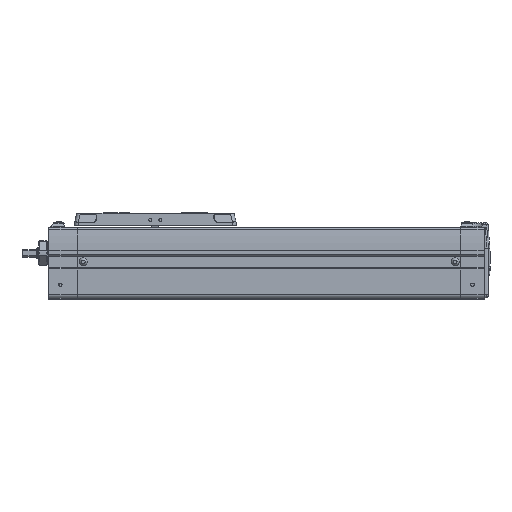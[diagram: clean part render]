
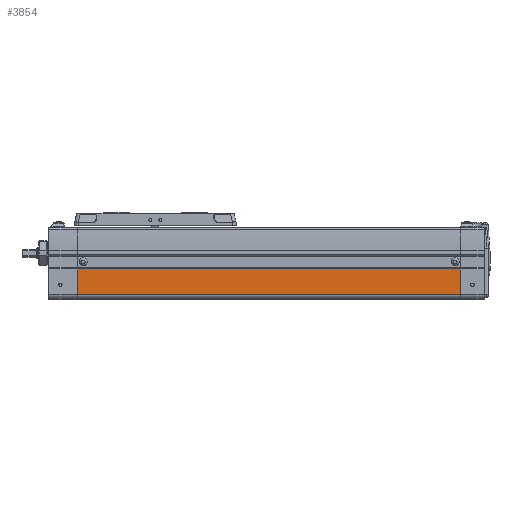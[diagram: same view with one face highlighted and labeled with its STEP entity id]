
A CAD part, front view. The second image highlights one B-rep face of the part: STEP entity #3854.
In plain terms, the highlighted planar face has unit normal (0, -1, 0).
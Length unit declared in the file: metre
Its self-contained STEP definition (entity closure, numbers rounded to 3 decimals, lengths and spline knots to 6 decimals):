
#3854=ADVANCED_FACE('',(#8485),#8486,.T.);
#8485=FACE_OUTER_BOUND('',#14815,.T.);
#8486=PLANE('',#14816);
#14815=EDGE_LOOP('',(#26439,#26440,#26441,#26442));
#14816=AXIS2_PLACEMENT_3D('',#26443,#26444,#26445);
#26439=ORIENTED_EDGE('',*,*,#41362,.T.);
#26440=ORIENTED_EDGE('',*,*,#40652,.F.);
#26441=ORIENTED_EDGE('',*,*,#41363,.T.);
#26442=ORIENTED_EDGE('',*,*,#41364,.T.);
#26443=CARTESIAN_POINT('',(0.,-0.0325,-0.02));
#26444=DIRECTION('',(0.,-1.0,0.));
#26445=DIRECTION('',(0.,0.,-1.0));
#40652=EDGE_CURVE('',#48003,#47998,#48005,.T.);
#41362=EDGE_CURVE('',#49163,#47998,#49164,.T.);
#41363=EDGE_CURVE('',#48003,#49165,#49166,.T.);
#41364=EDGE_CURVE('',#49165,#49163,#49167,.T.);
#47998=VERTEX_POINT('',#58395);
#48003=VERTEX_POINT('',#58402);
#48005=LINE('',#58405,#58406);
#49163=VERTEX_POINT('',#60135);
#49164=LINE('',#60136,#60137);
#49165=VERTEX_POINT('',#60138);
#49166=LINE('',#60139,#60140);
#49167=LINE('',#60141,#60142);
#58395=CARTESIAN_POINT('',(0.266,-0.0325,-0.011));
#58402=CARTESIAN_POINT('',(0.,-0.0325,-0.011));
#58405=CARTESIAN_POINT('',(0.,-0.0325,-0.011));
#58406=VECTOR('',#70540,1.0);
#60135=CARTESIAN_POINT('',(0.266,-0.0325,-0.029));
#60136=CARTESIAN_POINT('',(0.266,-0.0325,-0.011));
#60137=VECTOR('',#71364,1.0);
#60138=CARTESIAN_POINT('',(0.,-0.0325,-0.029));
#60139=CARTESIAN_POINT('',(0.,-0.0325,-0.011));
#60140=VECTOR('',#71365,1.0);
#60141=CARTESIAN_POINT('',(0.,-0.0325,-0.029));
#60142=VECTOR('',#71366,1.0);
#70540=DIRECTION('',(1.0,0.,0.));
#71364=DIRECTION('',(0.,0.,1.0));
#71365=DIRECTION('',(0.,0.,-1.0));
#71366=DIRECTION('',(1.0,0.,0.));
